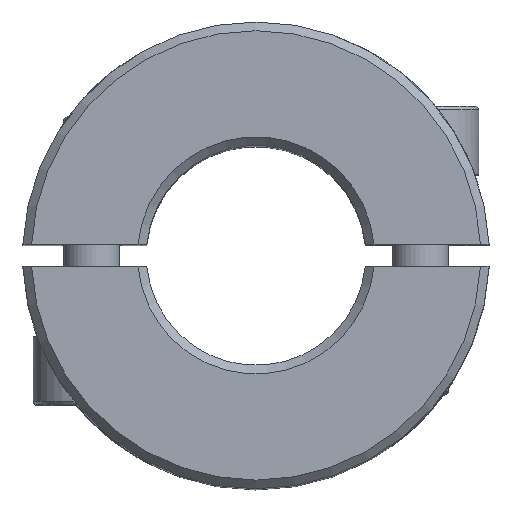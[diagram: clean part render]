
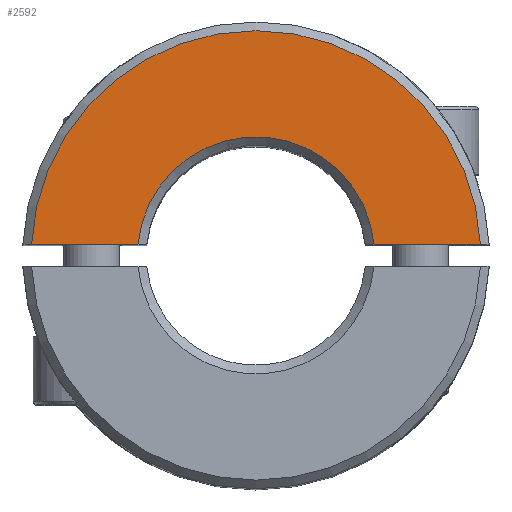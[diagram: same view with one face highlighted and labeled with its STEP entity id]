
A CAD part, top view. The second image highlights one B-rep face of the part: STEP entity #2592.
In plain terms, the highlighted planar face has unit normal (0, 0, 1).
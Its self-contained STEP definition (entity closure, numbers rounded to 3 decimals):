
#603=DIRECTION('',(-1.,0.,0.));
#604=VECTOR('',#603,7.748);
#605=CARTESIAN_POINT('',(16.345,0.8,25.));
#606=LINE('',#605,#604);
#612=CARTESIAN_POINT('',(0.,0.,25.));
#613=DIRECTION('',(0.,0.,-1.));
#614=DIRECTION('',(-0.996,0.093,0.));
#615=AXIS2_PLACEMENT_3D('',#612,#613,#614);
#635=DIRECTION('',(-1.,0.,0.));
#636=VECTOR('',#635,7.748);
#637=CARTESIAN_POINT('',(-8.598,0.8,25.));
#638=LINE('',#637,#636);
#639=CARTESIAN_POINT('',(-8.598,0.8,25.));
#710=CARTESIAN_POINT('',(0.,0.,25.));
#711=DIRECTION('',(0.,0.,1.));
#712=DIRECTION('',(0.999,0.049,0.));
#713=AXIS2_PLACEMENT_3D('',#710,#711,#712);
#1650=CARTESIAN_POINT('',(16.345,0.8,25.));
#1651=CARTESIAN_POINT('',(8.598,0.8,25.));
#1652=VERTEX_POINT('',#1650);
#1653=VERTEX_POINT('',#1651);
#1662=VERTEX_POINT('',#639);
#1667=CARTESIAN_POINT('',(-16.345,0.8,25.));
#1668=VERTEX_POINT('',#1667);
#2581=CARTESIAN_POINT('',(0.,0.,25.));
#2582=DIRECTION('',(0.,0.,1.));
#2583=DIRECTION('',(1.,0.,0.));
#2584=AXIS2_PLACEMENT_3D('',#2581,#2582,#2583);
#2585=PLANE('',#2584);
#2586=ORIENTED_EDGE('',*,*,#2437,.F.);
#2587=ORIENTED_EDGE('',*,*,#2464,.T.);
#2588=ORIENTED_EDGE('',*,*,#2568,.F.);
#2589=ORIENTED_EDGE('',*,*,#2402,.T.);
#2590=EDGE_LOOP('',(#2586,#2587,#2588,#2589));
#2591=FACE_OUTER_BOUND('',#2590,.F.);
#616=CIRCLE('',#615,8.635);
#714=CIRCLE('',#713,16.365);
#2402=EDGE_CURVE('',#1652,#1653,#606,.T.);
#2437=EDGE_CURVE('',#1662,#1653,#616,.T.);
#2464=EDGE_CURVE('',#1662,#1668,#638,.T.);
#2568=EDGE_CURVE('',#1652,#1668,#714,.T.);
#2592=ADVANCED_FACE('',(#2591),#2585,.T.);
